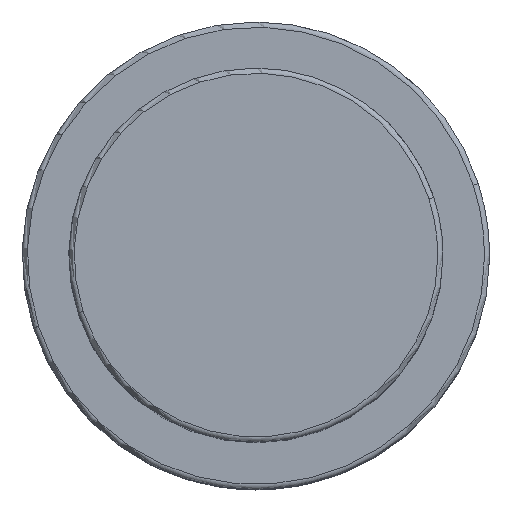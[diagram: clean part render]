
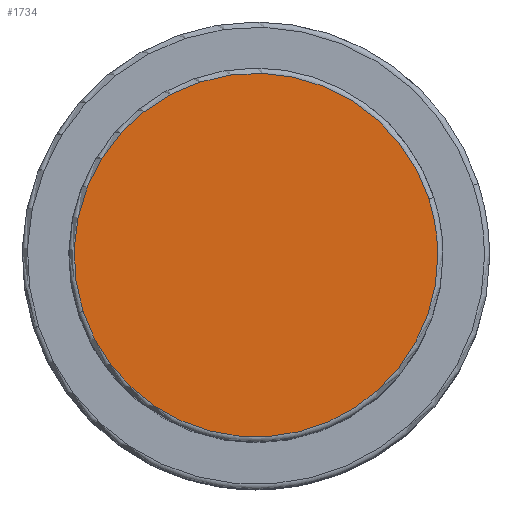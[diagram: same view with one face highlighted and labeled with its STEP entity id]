
A CAD part, top view. The second image highlights one B-rep face of the part: STEP entity #1734.
In plain terms, the highlighted planar face has unit normal (0, 0, 1).
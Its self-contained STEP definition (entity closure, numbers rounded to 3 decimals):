
#1667=CARTESIAN_POINT('',(16.643,5.408,63.0));
#1668=VERTEX_POINT('',#1667);
#1686=CARTESIAN_POINT('',(-16.643,-5.408,63.0));
#1687=VERTEX_POINT('',#1686);
#1695=CARTESIAN_POINT('',(0.0,0.0,63.0));
#1696=DIRECTION('',(0.0,0.0,1.0));
#1697=DIRECTION('',(1.0,0.0,0.0));
#1698=AXIS2_PLACEMENT_3D('',#1695,#1696,#1697);
#1699=CIRCLE('',#1698,17.5);
#1700=EDGE_CURVE('no 1899',#1668,#1687,#1699,.T.);
#1710=CARTESIAN_POINT('',(17.5,0.0,63.0));
#1711=VERTEX_POINT('',#1710);
#1712=CARTESIAN_POINT('',(0.0,0.0,63.0));
#1713=DIRECTION('',(0.0,0.0,1.0));
#1714=DIRECTION('',(1.0,0.0,0.0));
#1715=AXIS2_PLACEMENT_3D('',#1712,#1713,#1714);
#1716=CIRCLE('',#1715,17.5);
#1717=EDGE_CURVE('no 1908',#1711,#1668,#1716,.T.);
#1718=ORIENTED_EDGE('',*,*,#1717,.T.);
#1719=ORIENTED_EDGE('',*,*,#1700,.T.);
#1720=CARTESIAN_POINT('',(0.0,0.0,63.0));
#1721=DIRECTION('',(0.0,0.0,1.0));
#1722=DIRECTION('',(1.0,0.0,0.0));
#1723=AXIS2_PLACEMENT_3D('',#1720,#1721,#1722);
#1724=CIRCLE('',#1723,17.5);
#1725=EDGE_CURVE('no 1914',#1687,#1711,#1724,.T.);
#1726=ORIENTED_EDGE('',*,*,#1725,.T.);
#1727=EDGE_LOOP('',(#1718,#1719,#1726));
#1728=FACE_OUTER_BOUND('',#1727,.T.);
#1729=CARTESIAN_POINT('',(0.0,0.0,63.0));
#1730=DIRECTION('',(0.0,0.0,1.0));
#1731=DIRECTION('',(1.0,0.0,0.0));
#1732=AXIS2_PLACEMENT_3D('',#1729,#1730,#1731);
#1733=PLANE('',#1732);
#1734=ADVANCED_FACE('no 1901',(#1728),#1733,.T.);
